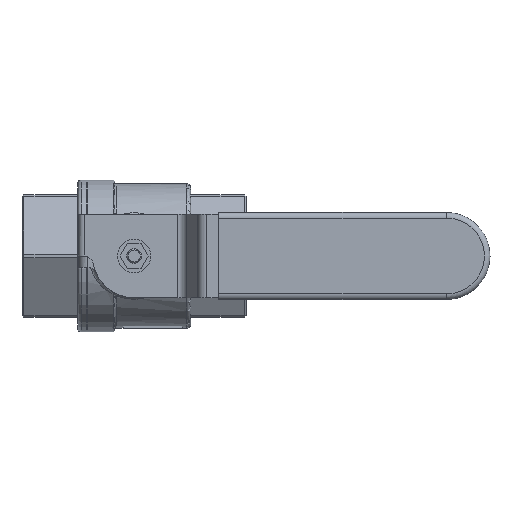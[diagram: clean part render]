
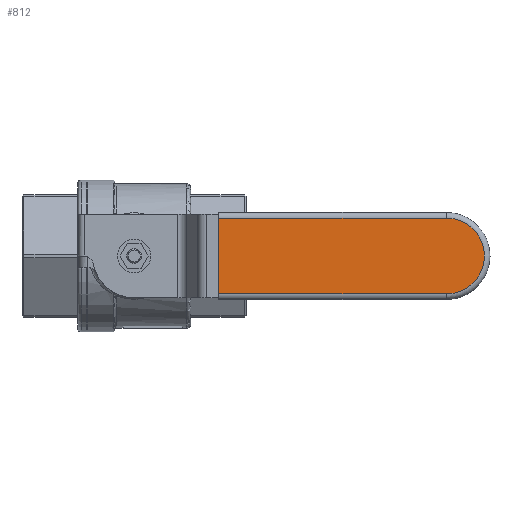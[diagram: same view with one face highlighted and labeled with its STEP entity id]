
A CAD part, front view. The second image highlights one B-rep face of the part: STEP entity #812.
In plain terms, the highlighted planar face has unit normal (0, -1, 0).
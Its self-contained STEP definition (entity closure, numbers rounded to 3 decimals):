
#812 = ADVANCED_FACE( '', ( #1719 ), #1720, .T. );
#1719 = FACE_OUTER_BOUND( '', #4177, .T. );
#1720 = PLANE( '', #4178 );
#4177 = EDGE_LOOP( '', ( #7118, #7119, #7120, #7121 ) );
#4178 = AXIS2_PLACEMENT_3D( '', #7122, #7123, #7124 );
#7118 = ORIENTED_EDGE( '', *, *, #7806, .T. );
#7119 = ORIENTED_EDGE( '', *, *, #8548, .T. );
#7120 = ORIENTED_EDGE( '', *, *, #8432, .T. );
#7121 = ORIENTED_EDGE( '', *, *, #7827, .T. );
#7122 = CARTESIAN_POINT( '', ( 229., -98., 0. ) );
#7123 = DIRECTION( '', ( 0., -1., 0. ) );
#7124 = DIRECTION( '', ( 0., 0., -1. ) );
#7806 = EDGE_CURVE( '', #8908, #8913, #8915, .T. );
#7827 = EDGE_CURVE( '', #8946, #8908, #8949, .T. );
#8432 = EDGE_CURVE( '', #9849, #8946, #9850, .T. );
#8548 = EDGE_CURVE( '', #8913, #9849, #9986, .T. );
#8908 = VERTEX_POINT( '', #11105 );
#8913 = VERTEX_POINT( '', #11110 );
#8915 = CIRCLE( '', #11112, 20.5 );
#8946 = VERTEX_POINT( '', #11234 );
#8949 = LINE( '', #11238, #11239 );
#9849 = VERTEX_POINT( '', #13776 );
#9850 = LINE( '', #13777, #13778 );
#9986 = LINE( '', #14175, #14176 );
#11105 = CARTESIAN_POINT( '', ( 229., -98., -20.5 ) );
#11110 = CARTESIAN_POINT( '', ( 229., -98., 20.5 ) );
#11112 = AXIS2_PLACEMENT_3D( '', #14453, #14454, #14455 );
#11234 = CARTESIAN_POINT( '', ( 106., -98., -20.5 ) );
#11238 = CARTESIAN_POINT( '', ( 229., -98., -20.5 ) );
#11239 = VECTOR( '', #14463, 1000. );
#13776 = CARTESIAN_POINT( '', ( 106., -98., 20.5 ) );
#13777 = CARTESIAN_POINT( '', ( 106., -98., 23.5 ) );
#13778 = VECTOR( '', #14793, 1000. );
#14175 = CARTESIAN_POINT( '', ( 229., -98., 20.5 ) );
#14176 = VECTOR( '', #14835, 1000. );
#14453 = CARTESIAN_POINT( '', ( 229., -98., 0. ) );
#14454 = DIRECTION( '', ( 0., -1., 0. ) );
#14455 = DIRECTION( '', ( 0., 0., -1. ) );
#14463 = DIRECTION( '', ( 1., 0., 0. ) );
#14793 = DIRECTION( '', ( 0., 0., -1. ) );
#14835 = DIRECTION( '', ( -1., 0., 0. ) );
